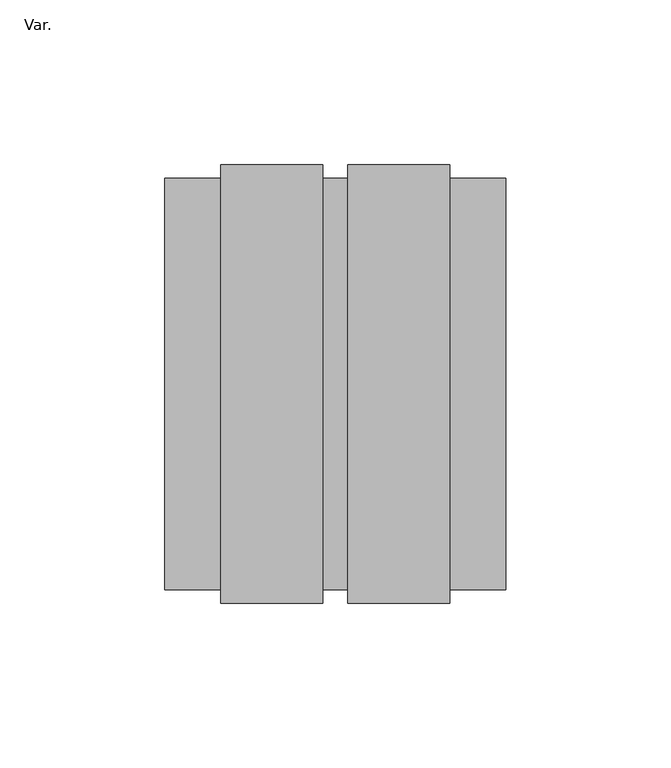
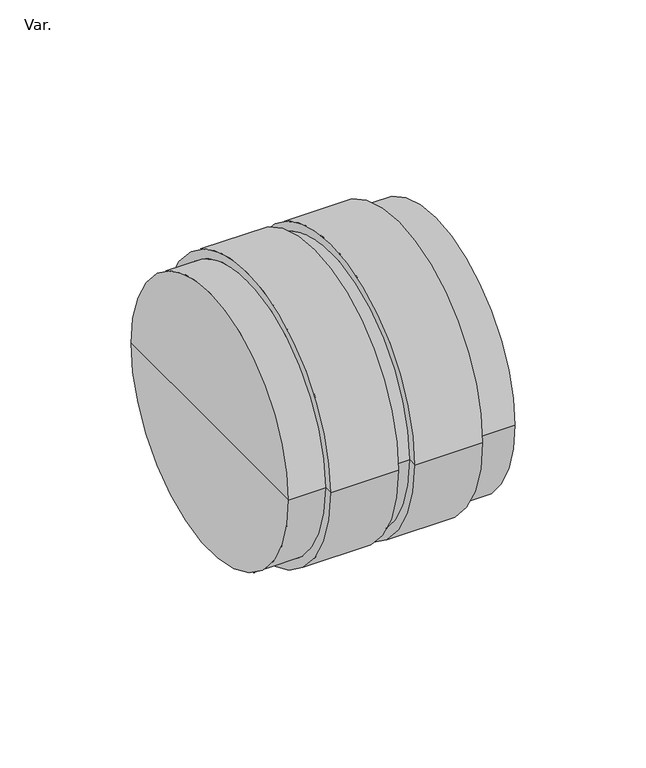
"""IFC4 building model written with IfcOpenShell, lengths in millimetres: pipe fitting geometry, NLRS_52_PIF_UN_HDPE double flange bushing_Akatherm : Var.."""

from ifc_helpers import new_model, si_unit, frame, origin, place, context, project, spatial, circle_curve, source, transform, mapped, element, save
from ifc_brep_helpers import plane_surface, cylinder_surface, advanced_brep


def var_c9dff895(model_context):
    return source(origin(), model_context, "Body", "AdvancedBrep", [
        advanced_brep(
        [(34.75, -62.5, 0.0), (34.75, 62.5, 0.0), (51.75, 62.5, 0.0), (51.75, -62.5, 0.0), (34.75, -66.5, 0.0), (34.75, 66.5, 0.0), (3.75, -66.5, 0.0), (3.75, 66.5, 0.0), (3.75, -62.5, 0.0), (3.75, 62.5, 0.0), (-3.75, -62.5, 0.0), (-3.75, 62.5, 0.0), (-3.75, -66.5, 0.0), (-3.75, 66.5, 0.0), (-34.75, -66.5, 0.0), (-34.75, 66.5, 0.0), (-34.75, -62.5, 0.0), (-34.75, 62.5, 0.0), (-51.75, -62.5, 0.0), (-51.75, 62.5, 0.0), (-51.75, 0.0, 0.0), (51.75, 0.0, 0.0)],
        [
            (0, 1, circle_curve(frame((34.75, 0.0, 0.0), z_axis=(1.0, 0.0, 0.0), x_axis=(0.0, 1.0, 0.0)), 62.5)),
            (1, 2),
            (2, 3, circle_curve(frame((51.75, 0.0, 0.0), z_axis=(-1.0, 0.0, 0.0), x_axis=(0.0, 1.0, 0.0)), 62.5)),
            (3, 0),
            (1, 0, circle_curve(frame((34.75, 0.0, 0.0), z_axis=(1.0, 0.0, 0.0), x_axis=(0.0, 1.0, 0.0)), 62.5)),
            (3, 2, circle_curve(frame((51.75, 0.0, 0.0), z_axis=(-1.0, 0.0, 0.0), x_axis=(0.0, 1.0, 0.0)), 62.5)),
            (4, 5, circle_curve(frame((34.75, 0.0, 0.0), z_axis=(1.0, 0.0, 0.0), x_axis=(0.0, 1.0, 0.0)), 66.5)),
            (5, 1),
            (0, 4),
            (5, 4, circle_curve(frame((34.75, 0.0, 0.0), z_axis=(1.0, 0.0, 0.0), x_axis=(0.0, 1.0, 0.0)), 66.5)),
            (6, 7, circle_curve(frame((3.75, 0.0, 0.0), z_axis=(1.0, 0.0, 0.0), x_axis=(0.0, 1.0, 0.0)), 66.5)),
            (7, 5),
            (4, 6),
            (7, 6, circle_curve(frame((3.75, 0.0, 0.0), z_axis=(1.0, 0.0, 0.0), x_axis=(0.0, 1.0, 0.0)), 66.5)),
            (8, 9, circle_curve(frame((3.75, 0.0, 0.0), z_axis=(1.0, 0.0, 0.0), x_axis=(0.0, 1.0, 0.0)), 62.5)),
            (9, 7),
            (6, 8),
            (9, 8, circle_curve(frame((3.75, 0.0, 0.0), z_axis=(1.0, 0.0, 0.0), x_axis=(0.0, 1.0, 0.0)), 62.5)),
            (10, 11, circle_curve(frame((-3.75, 0.0, 0.0), z_axis=(1.0, 0.0, 0.0), x_axis=(0.0, 1.0, 0.0)), 62.5)),
            (11, 9),
            (8, 10),
            (11, 10, circle_curve(frame((-3.75, 0.0, 0.0), z_axis=(1.0, 0.0, 0.0), x_axis=(0.0, 1.0, 0.0)), 62.5)),
            (12, 13, circle_curve(frame((-3.75, 0.0, 0.0), z_axis=(1.0, 0.0, 0.0), x_axis=(0.0, 1.0, 0.0)), 66.5)),
            (13, 11),
            (10, 12),
            (13, 12, circle_curve(frame((-3.75, 0.0, 0.0), z_axis=(1.0, 0.0, 0.0), x_axis=(0.0, 1.0, 0.0)), 66.5)),
            (14, 15, circle_curve(frame((-34.75, 0.0, 0.0), z_axis=(1.0, 0.0, 0.0), x_axis=(0.0, 1.0, 0.0)), 66.5)),
            (15, 13),
            (12, 14),
            (15, 14, circle_curve(frame((-34.75, 0.0, 0.0), z_axis=(1.0, 0.0, 0.0), x_axis=(0.0, 1.0, 0.0)), 66.5)),
            (16, 17, circle_curve(frame((-34.75, 0.0, 0.0), z_axis=(1.0, 0.0, 0.0), x_axis=(0.0, 1.0, 0.0)), 62.5)),
            (17, 15),
            (14, 16),
            (17, 16, circle_curve(frame((-34.75, 0.0, 0.0), z_axis=(1.0, 0.0, 0.0), x_axis=(0.0, 1.0, 0.0)), 62.5)),
            (18, 19, circle_curve(frame((-51.75, 0.0, 0.0), z_axis=(1.0, 0.0, 0.0), x_axis=(0.0, 1.0, 0.0)), 62.5)),
            (19, 17),
            (16, 18),
            (19, 18, circle_curve(frame((-51.75, 0.0, 0.0), z_axis=(1.0, 0.0, 0.0), x_axis=(0.0, 1.0, 0.0)), 62.5)),
            (20, 19),
            (18, 20),
            (2, 21),
            (21, 3),
        ],
        [
            cylinder_surface(frame((14.0, 0.0, 0.0), z_axis=(-1.0, 0.0, 0.0), x_axis=(0.0, 1.0, 0.0)), 62.5),
            plane_surface(frame((34.75, 0.0, 0.0), z_axis=(1.0, 0.0, 0.0), x_axis=(0.0, 1.0, 0.0))),
            cylinder_surface(frame((14.0, 0.0, 0.0), z_axis=(-1.0, 0.0, 0.0), x_axis=(0.0, 1.0, 0.0)), 66.5),
            plane_surface(frame((3.75, 0.0, 0.0), z_axis=(-1.0, 0.0, 0.0), x_axis=(0.0, 1.0, 0.0))),
            plane_surface(frame((-3.75, 0.0, 0.0), z_axis=(1.0, 0.0, 0.0), x_axis=(0.0, 1.0, 0.0))),
            plane_surface(frame((-34.75, 0.0, 0.0), z_axis=(-1.0, 0.0, 0.0), x_axis=(0.0, 1.0, 0.0))),
            plane_surface(frame((-51.75, 0.0, 0.0), z_axis=(-1.0, 0.0, 0.0), x_axis=(0.0, 1.0, 0.0))),
            plane_surface(frame((51.75, 0.0, 0.0), z_axis=(1.0, 0.0, 0.0), x_axis=(0.0, 1.0, 0.0))),
        ],
        [
            (0, [[1, 2, 3, 4]]),
            (0, [[5, -4, 6, -2]]),
            (1, [[7, 8, -1, 9]]),
            (1, [[10, -9, -5, -8]]),
            (2, [[11, 12, -7, 13]]),
            (2, [[14, -13, -10, -12]]),
            (3, [[15, 16, -11, 17]]),
            (3, [[18, -17, -14, -16]]),
            (0, [[19, 20, -15, 21]]),
            (0, [[22, -21, -18, -20]]),
            (4, [[23, 24, -19, 25]]),
            (4, [[26, -25, -22, -24]]),
            (2, [[27, 28, -23, 29]]),
            (2, [[30, -29, -26, -28]]),
            (5, [[31, 32, -27, 33]]),
            (5, [[34, -33, -30, -32]]),
            (0, [[35, 36, -31, 37]]),
            (0, [[38, -37, -34, -36]]),
            (6, [[39, -35, 40]]),
            (6, [[-40, -38, -39]]),
            (7, [[-3, 41, 42]]),
            (7, [[-6, -42, -41]]),
        ],
    ),
    ])


if __name__ == "__main__":
    model = new_model("IFC4")
    model_context = context("Model", 3, world=origin())
    ifc_project = project(units=[si_unit("LENGTHUNIT", "METRE", prefix="MILLI")], contexts=[model_context])
    site = spatial("IfcSite", under=ifc_project)
    building = spatial("IfcBuilding", under=site)
    placement = place(None, origin())
    var_shape = var_c9dff895(model_context)
    element("IfcPipeFitting", 1, ObjectType="NLRS_52_PIF_UN_HDPE double flange bushing_Akatherm : Var.", at=placement, inside=building, context=model_context, shape_type="MappedRepresentation", body=[
        mapped(var_shape, transform((0.0, 0.0, 0.0), x_axis=(1.0, 0.0, 0.0), y_axis=(0.0, 1.0, 0.0), z_axis=(0.0, 0.0, 1.0))),
    ])
    save(model, "model.ifc")
